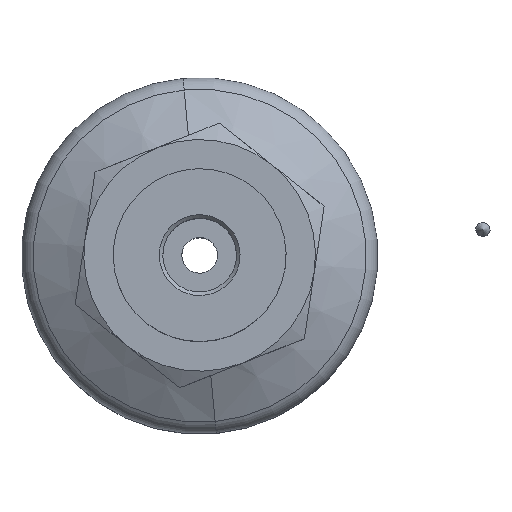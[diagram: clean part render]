
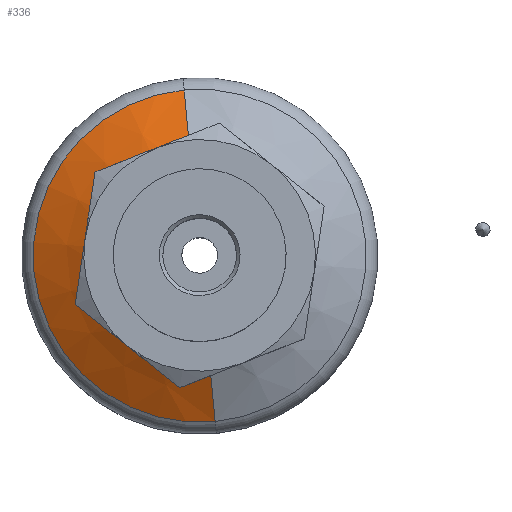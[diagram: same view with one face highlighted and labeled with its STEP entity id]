
A CAD part, top view. The second image highlights one B-rep face of the part: STEP entity #336.
In plain terms, the highlighted conical face has half-angle 60.443 degrees and reference radius 9.341 mm.
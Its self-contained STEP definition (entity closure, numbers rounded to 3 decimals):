
#336=ADVANCED_FACE('',(#653),#654,.T.);
#653=FACE_OUTER_BOUND('',#953,.T.);
#654=CONICAL_SURFACE('',#954,9.341,1.055);
#953=EDGE_LOOP('',(#1514,#1515,#1516,#1517));
#954=AXIS2_PLACEMENT_3D('',#1518,#1519,#1520);
#1514=ORIENTED_EDGE('',*,*,#1851,.F.);
#1515=ORIENTED_EDGE('',*,*,#1793,.F.);
#1516=ORIENTED_EDGE('',*,*,#1852,.T.);
#1517=ORIENTED_EDGE('',*,*,#1805,.T.);
#1518=CARTESIAN_POINT('',(0.,0.0,13.487));
#1519=DIRECTION('',(0.0,-0.0,-1.0));
#1520=DIRECTION('',(0.0,1.0,0.0));
#1793=EDGE_CURVE('',#2102,#2104,#2105,.T.);
#1805=EDGE_CURVE('',#2108,#2110,#2123,.T.);
#1851=EDGE_CURVE('',#2104,#2110,#2182,.T.);
#1852=EDGE_CURVE('',#2102,#2108,#2183,.T.);
#2102=VERTEX_POINT('',#2539);
#2104=VERTEX_POINT('',#2541);
#2105=CIRCLE('',#2542,5.659);
#2108=VERTEX_POINT('',#2545);
#2110=VERTEX_POINT('',#2547);
#2123=CIRCLE('',#2562,9.341);
#2182=LINE('',#2627,#2628);
#2183=LINE('',#2629,#2630);
#2539=CARTESIAN_POINT('',(0.,5.659,15.575));
#2541=CARTESIAN_POINT('',(0.,-5.659,15.575));
#2542=AXIS2_PLACEMENT_3D('',#2867,#2868,#2869);
#2545=CARTESIAN_POINT('',(0.,9.341,13.487));
#2547=CARTESIAN_POINT('',(0.,-9.341,13.487));
#2562=AXIS2_PLACEMENT_3D('',#2890,#2891,#2892);
#2627=CARTESIAN_POINT('',(0.,-9.341,13.487));
#2628=VECTOR('',#2974,1.0);
#2629=CARTESIAN_POINT('',(0.,9.341,13.487));
#2630=VECTOR('',#2975,1.0);
#2867=CARTESIAN_POINT('',(0.,0.0,15.575));
#2868=DIRECTION('',(0.0,0.0,1.0));
#2869=DIRECTION('',(0.0,-1.0,0.0));
#2890=CARTESIAN_POINT('',(0.,0.0,13.487));
#2891=DIRECTION('',(0.0,0.0,1.0));
#2892=DIRECTION('',(0.0,-1.0,0.0));
#2974=DIRECTION('',(0.,-0.87,-0.493));
#2975=DIRECTION('',(0.0,0.87,-0.493));
